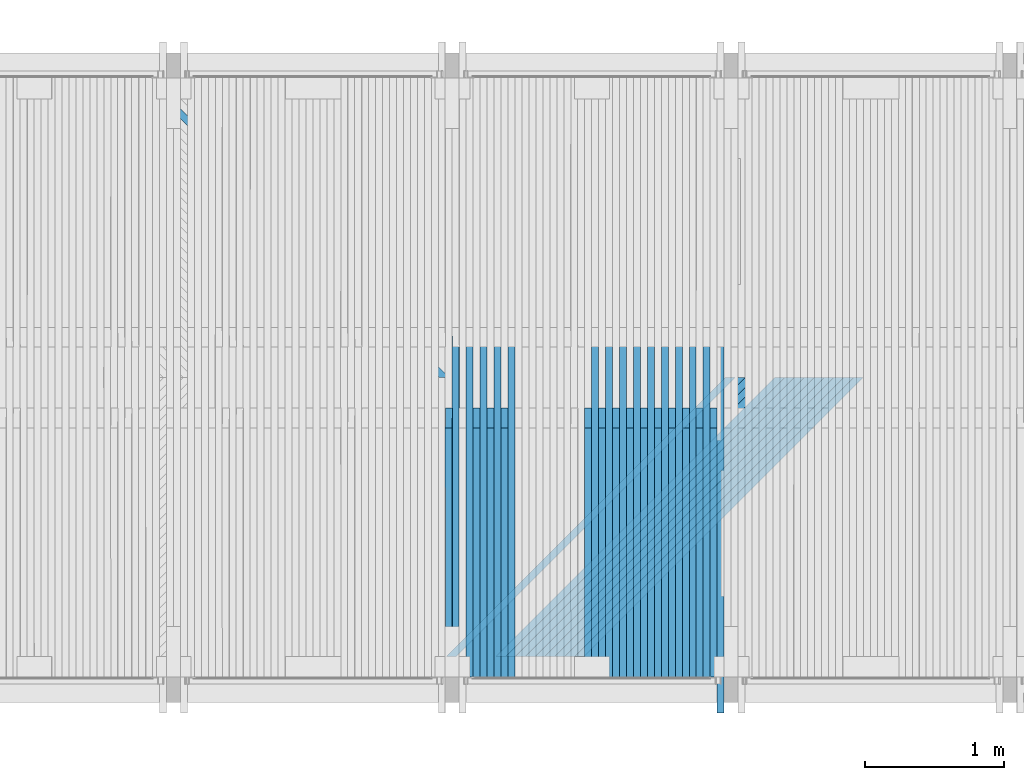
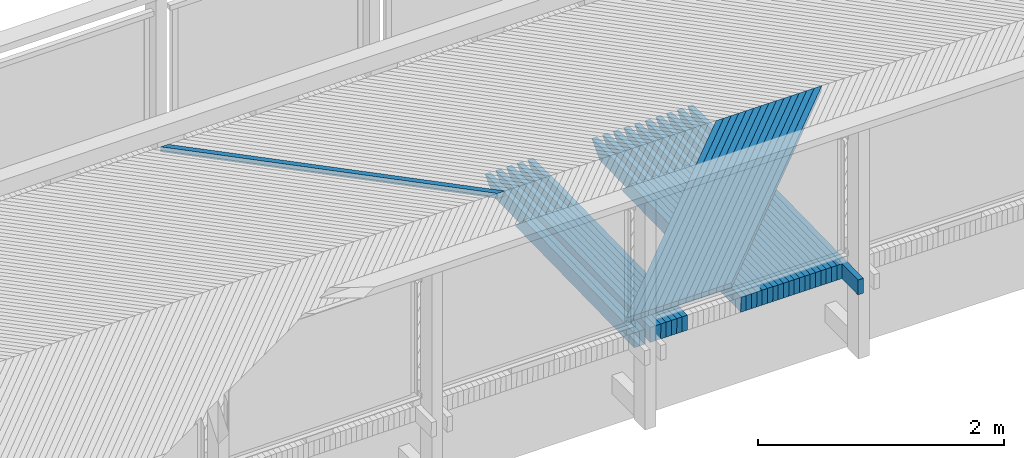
# One storey, part 24 of 65: 44 beams.
"""IFC2X3 building model written with IfcOpenShell, lengths in millimetres."""

from ifc_helpers import new_model, si_unit, frame, origin_with_axes, place, context, subcontext, project, spatial, faceted_brep, material, type_object, element, save


model = new_model("IFC2X3")

# Units and contexts
model_context = context("Model", 3, precision=1e-05, world=origin_with_axes())
body_context = subcontext(model_context, "Body", "Model", "MODEL_VIEW")
ifc_project = project(units=[si_unit("LENGTHUNIT", "METRE", prefix="MILLI"), si_unit("AREAUNIT", "SQUARE_METRE"), si_unit("VOLUMEUNIT", "CUBIC_METRE"), si_unit("MASSUNIT", "GRAM", prefix="KILO"), si_unit("TIMEUNIT", "SECOND"), si_unit("PLANEANGLEUNIT", "RADIAN"), si_unit("SOLIDANGLEUNIT", "STERADIAN"), si_unit("THERMODYNAMICTEMPERATUREUNIT", "DEGREE_CELSIUS"), si_unit("LUMINOUSINTENSITYUNIT", "LUMEN")], contexts=[model_context])

# Site, building, storey
site_placement = place(None, origin_with_axes())
site = spatial("IfcSite", under=ifc_project, at=site_placement, Name="Undefined", CompositionType="ELEMENT")
building_placement = place(site_placement, origin_with_axes())
building = spatial("IfcBuilding", under=site, at=building_placement, Name="Undefined", CompositionType="ELEMENT")
storey_placement = place(building_placement, origin_with_axes())
storey = spatial("IfcBuildingStorey", under=building, at=storey_placement, Name="Undefined", CompositionType="ELEMENT", Elevation=0.0)

# Beams
ifc_material = material(Name="TIMBER/Timber_Undefined")
beam_type_1 = type_object("IfcBeamType", Name="50*50", PredefinedType="NOTDEFINED")
for number, where, z_axis, x_axis, name in (
    (1, (8913.77277485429, 22364.5001003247, 3235.42868074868), (0.707094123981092, -0.706981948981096, -0.0139435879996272), (-0.707119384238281, -0.706948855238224, -0.0143350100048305), "BEAM"),
    (2, (8843.04861667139, 22364.5001003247, 3235.53185944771), (0.707095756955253, -0.70698194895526, -0.013860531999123), (-0.7071176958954, -0.706948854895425, -0.0144180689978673), "BEAM"),
    (3, (8772.32444685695, 22364.5001003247, 3235.62673083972), (0.707097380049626, -0.706981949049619, -0.0137774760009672), (-0.707115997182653, -0.70694885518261, -0.0145011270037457), "BEAM"),
    (4, (8701.60026638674, 22364.5001003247, 3235.71329492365), (0.707098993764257, -0.706981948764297, -0.0136944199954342), (-0.707114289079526, -0.706948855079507, -0.0145841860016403), "BEAM"),
    (5, (8630.87607623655, 22364.5001003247, 3235.79155169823), (0.707100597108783, -0.706981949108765, -0.013611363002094), (-0.707112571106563, -0.706948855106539, -0.0146672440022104), "BEAM"),
    (6, (8560.15187738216, 22364.5001003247, 3235.86150116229), (0.707102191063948, -0.706981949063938, -0.0135283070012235), (-0.707110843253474, -0.706948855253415, -0.0147503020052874), "BEAM"),
    (7, (8489.42767079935, 22364.5001003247, 3235.9231433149), (0.707103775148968, -0.706981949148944, -0.0134452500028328), (-0.707109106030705, -0.706948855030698, -0.0148333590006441), "BEAM"),
    (8, (8418.7034574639, 22364.5001003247, 3235.97647815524), (0.707105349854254, -0.706981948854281, -0.0133621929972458), (-0.70710735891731, -0.706948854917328, -0.0149164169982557), "BEAM"),
    (9, (8347.9792383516, 22364.5001003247, 3236.02150568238), (0.707106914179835, -0.706981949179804, -0.0132791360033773), (-0.707105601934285, -0.7069488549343, -0.014999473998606), "BEAM"),
    (10, (8277.25501443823, 22364.5001003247, 3236.05822589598), (0.707108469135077, -0.706981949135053, -0.0131960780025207), (-0.707103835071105, -0.70694885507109, -0.0150825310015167), "BEAM"),
    (11, (8206.53078669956, 22364.5001003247, 3236.08663879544), (0.707110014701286, -0.706981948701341, -0.0131130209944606), (-0.707102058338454, -0.706948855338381, -0.015165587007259), "BEAM"),
    (12, (8135.80655611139, 22364.5001003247, 3236.10674438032), (0.707111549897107, -0.706981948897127, -0.0130299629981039), (-0.707100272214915, -0.706948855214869, -0.0152486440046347), "BEAM"),
    (13, (8065.0823236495, 22364.5001003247, 3236.11854265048), (0.70711307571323, -0.706981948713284, -0.0129469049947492), (-0.70709847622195, -0.706948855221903, -0.0153317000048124), "BEAM"),
    (14, (7994.35809028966, 22364.5001003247, 3236.12203360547), (0.707114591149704, -0.706981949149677, -0.0128638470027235), (-0.707096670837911, -0.706948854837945, -0.0154147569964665), "BEAM"),
):
    element("IfcBeam", number, at=place(storey_placement, frame(where, z_axis=z_axis, x_axis=x_axis)), inside=storey, type_object=beam_type_1, material=ifc_material, Name=name, ObjectType="50*50", context=body_context, shape_type="Brep", body=[
        faceted_brep([(24.8942457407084, 25.0000000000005, -25.0000000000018), (-25.0086637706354, 24.9999999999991, 25.0), (2804.3406783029, 25.0, 25.0000000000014), (2854.34301907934, 24.9999999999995, -25.0), (-26.4222658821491, -25.0000000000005, 25.0), (2802.92643296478, -25.0, 25.0000000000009), (23.4806436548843, -24.9999999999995, -25.0000000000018), (2852.92877373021, -25.0000000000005, -24.9999999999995)], [[[0, 1, 2, 3]], [[1, 4, 5, 2]], [[4, 6, 7, 5]], [[6, 0, 3, 7]], [[5, 7, 3, 2]], [[6, 4, 1, 0]]]),
    ])
beam_1_placement = place(storey_placement, frame((5943.35931839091, 22365.4998996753, 3232.6095926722), z_axis=(0.707154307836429, 0.70698194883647, -0.0104550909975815), x_axis=(-0.707040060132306, 0.706948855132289, -0.0178232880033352)))
element("IfcBeam", 15, at=beam_1_placement, inside=storey, type_object=beam_type_1, material=ifc_material, Name="BEAM", ObjectType="50*50", context=body_context, shape_type="Brep", body=[
    faceted_brep([(23.5869248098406, 24.9999999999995, -24.9999999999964), (-26.4154158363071, 24.9999999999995, 24.9999999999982), (2802.92643296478, 25.0, 25.0), (2852.92877373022, 25.0000000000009, -25.0), (-25.0011704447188, -25.0, 24.9999999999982), (2804.34067830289, -25.0, 25.0000000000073), (25.0011701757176, -25.0000000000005, -24.9999999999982), (2854.34301907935, -24.9999999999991, -25.0000000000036)], [[[0, 1, 2, 3]], [[1, 4, 5, 2]], [[4, 6, 7, 5]], [[6, 0, 3, 7]], [[5, 7, 3, 2]], [[6, 4, 1, 0]]]),
])
beam_type_2 = type_object("IfcBeamType", Name="150*50", PredefinedType="NOTDEFINED")
for number, where, z_axis, x_axis, name in (
    (16, (7875.75102646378, 20216.5046076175, 3093.13715307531), (-0.000287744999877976, -0.0199960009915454, 0.999800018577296), (-5.75600000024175e-06, 0.999800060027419, 0.0199959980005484), "BEAM"),
    (17, (7775.73099692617, 20216.5046076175, 3093.10819901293), (-0.000453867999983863, -0.0199960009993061, 0.999799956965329), (-9.07800000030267e-06, 0.999800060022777, 0.0199959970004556), "BEAM"),
):
    element("IfcBeam", number, at=place(storey_placement, frame(where, z_axis=z_axis, x_axis=x_axis)), inside=storey, type_object=beam_type_2, material=ifc_material, Name=name, ObjectType="150*50", context=body_context, shape_type="Brep", body=[
        faceted_brep([(-1.6778358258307e-07, -24.9999999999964, -74.9999999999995), (1.67790858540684e-07, -24.9999999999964, 75.0000000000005), (1.67790858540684e-07, 25.0000000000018, 74.9999999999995), (-1.6778358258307e-07, 25.0000000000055, -75.0), (1928.42646353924, -25.0, -75.0000000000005), (1789.96936433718, -25.0000000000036, 74.9999999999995), (1789.96936408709, 24.9999999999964, 75.0), (1928.42646328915, 24.9999999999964, -75.0)], [[[0, 1, 2, 3]], [[1, 0, 4, 5]], [[2, 1, 5, 6]], [[3, 2, 6, 7]], [[0, 3, 7, 4]], [[7, 6, 5, 4]]]),
    ])
beam_2_placement = place(storey_placement, frame((7825.75102780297, 20216.5046076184, 3093.12259668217), z_axis=(-0.000287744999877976, -0.0199960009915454, 0.999800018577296), x_axis=(-5.75600000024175e-06, 0.999800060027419, 0.0199959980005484)))
element("IfcBeam", 18, at=beam_2_placement, inside=storey, type_object=beam_type_2, material=ifc_material, Name="BEAM", ObjectType="150*50", context=body_context, shape_type="Brep", body=[
    faceted_brep([(-1.6778358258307e-07, -24.9999999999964, -74.9999999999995), (1.67790858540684e-07, -24.9999999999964, 75.0000000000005), (1.67790858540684e-07, 25.0000000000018, 74.9999999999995), (-1.6778358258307e-07, 25.0000000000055, -75.0), (2375.00494422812, 25.0000000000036, -75.0), (2375.00494447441, -24.9999999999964, -74.9999999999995), (2510.59248714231, -24.9999999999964, 60.5875430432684), (2150.42514405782, -24.9999999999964, 75.0000000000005), (2150.42515052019, 25.0000000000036, 74.9999999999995), (2510.59248715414, 25.0000000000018, 60.5875433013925)], [[[0, 1, 2, 3]], [[0, 3, 4, 5]], [[1, 0, 5, 6, 7]], [[2, 1, 7, 8]], [[4, 3, 2, 8, 9]], [[5, 4, 9, 6]], [[6, 9, 8, 7]]]),
])
beam_3_placement = place(storey_placement, frame((7675.71097358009, 20216.5046076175, 3093.06262608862), z_axis=(-0.000619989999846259, -0.0199960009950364, 0.999799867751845), x_axis=(-1.24010000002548e-05, 0.99980006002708, 0.0199959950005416)))
element("IfcBeam", 19, at=beam_3_placement, inside=storey, type_object=beam_type_2, material=ifc_material, Name="BEAM", ObjectType="150*50", context=body_context, shape_type="Brep", body=[
    faceted_brep([(-1.6778358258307e-07, -24.9999999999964, -74.9999999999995), (1.67790858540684e-07, -24.9999999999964, 75.0000000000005), (1.67790858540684e-07, 25.0000000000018, 74.9999999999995), (-1.6778358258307e-07, 25.0000000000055, -75.0), (1928.42646353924, -25.0, -75.0000000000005), (1789.96936433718, -25.0000000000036, 74.9999999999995), (1789.96936408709, 24.9999999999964, 75.0), (1928.42646328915, 24.9999999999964, -75.0)], [[[0, 1, 2, 3]], [[1, 0, 4, 5]], [[2, 1, 5, 6]], [[3, 2, 6, 7]], [[0, 3, 7, 4]], [[7, 6, 5, 4]]]),
])
beam_4_placement = place(storey_placement, frame((7725.73100137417, 20216.5046076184, 3093.08533485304), z_axis=(-0.000453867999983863, -0.0199960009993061, 0.999799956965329), x_axis=(-9.07800000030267e-06, 0.999800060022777, 0.0199959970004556)))
element("IfcBeam", 20, at=beam_4_placement, inside=storey, type_object=beam_type_2, material=ifc_material, Name="BEAM", ObjectType="150*50", context=body_context, shape_type="Brep", body=[
    faceted_brep([(-1.6778358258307e-07, -24.9999999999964, -74.9999999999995), (1.67790858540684e-07, -24.9999999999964, 75.0000000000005), (1.67790858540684e-07, 25.0000000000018, 74.9999999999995), (-1.6778358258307e-07, 25.0000000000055, -75.0), (2375.00494422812, 25.0000000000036, -75.0), (2375.00494447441, -24.9999999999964, -74.9999999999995), (2510.59248714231, -24.9999999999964, 60.5875430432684), (2150.42514405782, -24.9999999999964, 75.0000000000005), (2150.42515052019, 25.0000000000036, 74.9999999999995), (2510.59248715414, 25.0000000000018, 60.5875433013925)], [[[0, 1, 2, 3]], [[0, 3, 4, 5]], [[1, 0, 5, 6, 7]], [[2, 1, 7, 8]], [[4, 3, 2, 8, 9]], [[5, 4, 9, 6]], [[6, 9, 8, 7]]]),
])
beam_5_placement = place(storey_placement, frame((7575.69095918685, 20216.5046076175, 3093.00043430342), z_axis=(-0.00078611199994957, -0.0199960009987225, 0.999799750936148), x_axis=(-1.57230000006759e-05, 0.999800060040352, 0.019995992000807)))
element("IfcBeam", 21, at=beam_5_placement, inside=storey, type_object=beam_type_2, material=ifc_material, Name="BEAM", ObjectType="150*50", context=body_context, shape_type="Brep", body=[
    faceted_brep([(-1.6778358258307e-07, -24.9999999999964, -74.9999999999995), (1.67790858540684e-07, -24.9999999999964, 75.0000000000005), (1.67790858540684e-07, 25.0000000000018, 74.9999999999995), (-1.6778358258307e-07, 25.0000000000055, -75.0), (1928.42646353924, -25.0, -75.0000000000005), (1789.96936433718, -25.0000000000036, 74.9999999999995), (1789.96936408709, 24.9999999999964, 75.0), (1928.42646328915, 24.9999999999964, -75.0)], [[[0, 1, 2, 3]], [[1, 0, 4, 5]], [[2, 1, 5, 6]], [[3, 2, 6, 7]], [[0, 3, 7, 4]], [[7, 6, 5, 4]]]),
])
beam_6_placement = place(storey_placement, frame((7625.71098251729, 20216.5046076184, 3093.03145416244), z_axis=(-0.000619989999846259, -0.0199960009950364, 0.999799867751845), x_axis=(-1.24010000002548e-05, 0.99980006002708, 0.0199959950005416)))
element("IfcBeam", 22, at=beam_6_placement, inside=storey, type_object=beam_type_2, material=ifc_material, Name="BEAM", ObjectType="150*50", context=body_context, shape_type="Brep", body=[
    faceted_brep([(-1.6778358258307e-07, -24.9999999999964, -74.9999999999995), (1.67790858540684e-07, -24.9999999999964, 75.0000000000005), (1.67790858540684e-07, 25.0000000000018, 74.9999999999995), (-1.6778358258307e-07, 25.0000000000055, -75.0), (2375.00494422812, 25.0000000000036, -75.0), (2375.00494447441, -24.9999999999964, -74.9999999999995), (2510.59248714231, -24.9999999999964, 60.5875430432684), (2150.42514405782, -24.9999999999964, 75.0000000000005), (2150.42515052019, 25.0000000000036, 74.9999999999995), (2510.59248715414, 25.0000000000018, 60.5875433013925)], [[[0, 1, 2, 3]], [[0, 3, 4, 5]], [[1, 0, 5, 6, 7]], [[2, 1, 7, 8]], [[4, 3, 2, 8, 9]], [[5, 4, 9, 6]], [[6, 9, 8, 7]]]),
])
beam_7_placement = place(storey_placement, frame((7475.67095650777, 20216.5046076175, 3092.92162365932), z_axis=(-0.000952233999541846, -0.0199960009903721, 0.999799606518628), x_axis=(-1.90460000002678e-05, 0.999800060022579, 0.0199959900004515)))
element("IfcBeam", 23, at=beam_7_placement, inside=storey, type_object=beam_type_2, material=ifc_material, Name="BEAM", ObjectType="150*50", context=body_context, shape_type="Brep", body=[
    faceted_brep([(-1.6778358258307e-07, -24.9999999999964, -74.9999999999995), (1.67790858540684e-07, -24.9999999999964, 75.0000000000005), (1.67790858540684e-07, 25.0000000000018, 74.9999999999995), (-1.6778358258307e-07, 25.0000000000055, -75.0), (1928.42646353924, -25.0, -75.0000000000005), (1789.96936433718, -25.0000000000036, 74.9999999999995), (1789.96936408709, 24.9999999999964, 75.0), (1928.42646328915, 24.9999999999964, -75.0)], [[[0, 1, 2, 3]], [[1, 0, 4, 5]], [[2, 1, 5, 6]], [[3, 2, 6, 7]], [[0, 3, 7, 4]], [[7, 6, 5, 4]]]),
])
beam_8_placement = place(storey_placement, frame((7525.69097399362, 20216.5046076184, 3092.96095461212), z_axis=(-0.00078611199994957, -0.0199960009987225, 0.999799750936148), x_axis=(-1.57230000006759e-05, 0.999800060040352, 0.019995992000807)))
element("IfcBeam", 24, at=beam_8_placement, inside=storey, type_object=beam_type_2, material=ifc_material, Name="BEAM", ObjectType="150*50", context=body_context, shape_type="Brep", body=[
    faceted_brep([(-1.6778358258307e-07, -24.9999999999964, -74.9999999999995), (1.67790858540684e-07, -24.9999999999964, 75.0000000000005), (1.67790858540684e-07, 25.0000000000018, 74.9999999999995), (-1.6778358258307e-07, 25.0000000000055, -75.0), (2375.00494422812, 25.0000000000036, -75.0), (2375.00494447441, -24.9999999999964, -74.9999999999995), (2510.59248714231, -24.9999999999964, 60.5875430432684), (2150.42514405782, -24.9999999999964, 75.0000000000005), (2150.42515052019, 25.0000000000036, 74.9999999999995), (2510.59248715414, 25.0000000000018, 60.5875433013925)], [[[0, 1, 2, 3]], [[0, 3, 4, 5]], [[1, 0, 5, 6, 7]], [[2, 1, 7, 8]], [[4, 3, 2, 8, 9]], [[5, 4, 9, 6]], [[6, 9, 8, 7]]]),
])
beam_9_placement = place(storey_placement, frame((7375.65096830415, 20216.5046076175, 3092.82619415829), z_axis=(-0.00111835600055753, -0.019996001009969, 0.999799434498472), x_axis=(-2.23680000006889e-05, 0.999800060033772, 0.0199959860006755)))
element("IfcBeam", 25, at=beam_9_placement, inside=storey, type_object=beam_type_2, material=ifc_material, Name="BEAM", ObjectType="150*50", context=body_context, shape_type="Brep", body=[
    faceted_brep([(-1.6778358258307e-07, -24.9999999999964, -74.9999999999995), (1.67790858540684e-07, -24.9999999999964, 75.0000000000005), (1.67790858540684e-07, 25.0000000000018, 74.9999999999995), (-1.6778358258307e-07, 25.0000000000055, -75.0), (1928.42646353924, -25.0, -75.0000000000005), (1789.96936433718, -25.0000000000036, 74.9999999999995), (1789.96936408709, 24.9999999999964, 75.0), (1928.42646328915, 24.9999999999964, -75.0)], [[[0, 1, 2, 3]], [[1, 0, 4, 5]], [[2, 1, 5, 6]], [[3, 2, 6, 7]], [[0, 3, 7, 4]], [[7, 6, 5, 4]]]),
])
beam_10_placement = place(storey_placement, frame((7425.67097856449, 20216.5046076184, 3092.87383620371), z_axis=(-0.000952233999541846, -0.0199960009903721, 0.999799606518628), x_axis=(-1.90460000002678e-05, 0.999800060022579, 0.0199959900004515)))
element("IfcBeam", 26, at=beam_10_placement, inside=storey, type_object=beam_type_2, material=ifc_material, Name="BEAM", ObjectType="150*50", context=body_context, shape_type="Brep", body=[
    faceted_brep([(-1.6778358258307e-07, -24.9999999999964, -74.9999999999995), (1.67790858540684e-07, -24.9999999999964, 75.0000000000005), (1.67790858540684e-07, 25.0000000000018, 74.9999999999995), (-1.6778358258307e-07, 25.0000000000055, -75.0), (2375.00494422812, 25.0000000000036, -75.0), (2375.00494447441, -24.9999999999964, -74.9999999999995), (2510.59248714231, -24.9999999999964, 60.5875430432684), (2150.42514405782, -24.9999999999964, 75.0000000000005), (2150.42515052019, 25.0000000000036, 74.9999999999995), (2510.59248715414, 25.0000000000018, 60.5875433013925)], [[[0, 1, 2, 3]], [[0, 3, 4, 5]], [[1, 0, 5, 6, 7]], [[2, 1, 7, 8]], [[4, 3, 2, 8, 9]], [[5, 4, 9, 6]], [[6, 9, 8, 7]]]),
])
beam_11_placement = place(storey_placement, frame((7275.63099733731, 20216.5046076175, 3092.71414580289), z_axis=(-0.00128447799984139, -0.0199960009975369, 0.99979923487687), x_axis=(-2.56900000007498e-05, 0.999800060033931, 0.0199959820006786)))
element("IfcBeam", 27, at=beam_11_placement, inside=storey, type_object=beam_type_2, material=ifc_material, Name="BEAM", ObjectType="150*50", context=body_context, shape_type="Brep", body=[
    faceted_brep([(-1.6778358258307e-07, -24.9999999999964, -74.9999999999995), (1.67790858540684e-07, -24.9999999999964, 75.0000000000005), (1.67790858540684e-07, 25.0000000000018, 74.9999999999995), (-1.6778358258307e-07, 25.0000000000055, -75.0), (1928.42646353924, -25.0, -75.0000000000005), (1789.96936433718, -25.0000000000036, 74.9999999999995), (1789.96936408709, 24.9999999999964, 75.0), (1928.42646328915, 24.9999999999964, -75.0)], [[[0, 1, 2, 3]], [[1, 0, 4, 5]], [[2, 1, 5, 6]], [[3, 2, 6, 7]], [[0, 3, 7, 4]], [[7, 6, 5, 4]]]),
])
beam_12_placement = place(storey_placement, frame((7325.6509989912, 20216.5046076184, 3092.77009893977), z_axis=(-0.00111835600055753, -0.019996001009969, 0.999799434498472), x_axis=(-2.23680000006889e-05, 0.999800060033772, 0.0199959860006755)))
element("IfcBeam", 28, at=beam_12_placement, inside=storey, type_object=beam_type_2, material=ifc_material, Name="BEAM", ObjectType="150*50", context=body_context, shape_type="Brep", body=[
    faceted_brep([(-1.6778358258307e-07, -24.9999999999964, -74.9999999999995), (1.67790858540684e-07, -24.9999999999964, 75.0000000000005), (1.67790858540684e-07, 25.0000000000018, 74.9999999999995), (-1.6778358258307e-07, 25.0000000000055, -75.0), (2375.00494422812, 25.0000000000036, -75.0), (2375.00494447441, -24.9999999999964, -74.9999999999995), (2510.59248714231, -24.9999999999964, 60.5875430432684), (2150.42514405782, -24.9999999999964, 75.0000000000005), (2150.42515052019, 25.0000000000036, 74.9999999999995), (2510.59248715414, 25.0000000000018, 60.5875433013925)], [[[0, 1, 2, 3]], [[0, 3, 4, 5]], [[1, 0, 5, 6, 7]], [[2, 1, 7, 8]], [[4, 3, 2, 8, 9]], [[5, 4, 9, 6]], [[6, 9, 8, 7]]]),
])
beam_13_placement = place(storey_placement, frame((7175.61104636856, 20216.5046076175, 3092.58547859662), z_axis=(-0.00145059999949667, -0.0199960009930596, 0.999799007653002), x_axis=(-2.90130000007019e-05, 0.999800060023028, 0.0199959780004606)))
element("IfcBeam", 29, at=beam_13_placement, inside=storey, type_object=beam_type_2, material=ifc_material, Name="BEAM", ObjectType="150*50", context=body_context, shape_type="Brep", body=[
    faceted_brep([(-1.6778358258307e-07, -24.9999999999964, -74.9999999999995), (1.67790858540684e-07, -24.9999999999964, 75.0000000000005), (1.67790858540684e-07, 25.0000000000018, 74.9999999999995), (-1.6778358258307e-07, 25.0000000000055, -75.0), (1928.42646353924, -25.0, -75.0000000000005), (1789.96936433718, -25.0000000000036, 74.9999999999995), (1789.96936408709, 24.9999999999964, 75.0), (1928.42646328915, 24.9999999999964, -75.0)], [[[0, 1, 2, 3]], [[1, 0, 4, 5]], [[2, 1, 5, 6]], [[3, 2, 6, 7]], [[0, 3, 7, 4]], [[7, 6, 5, 4]]]),
])
beam_14_placement = place(storey_placement, frame((7225.63103803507, 20216.5046076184, 3092.64974282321), z_axis=(-0.00128447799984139, -0.0199960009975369, 0.99979923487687), x_axis=(-2.56900000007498e-05, 0.999800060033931, 0.0199959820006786)))
element("IfcBeam", 30, at=beam_14_placement, inside=storey, type_object=beam_type_2, material=ifc_material, Name="BEAM", ObjectType="150*50", context=body_context, shape_type="Brep", body=[
    faceted_brep([(-1.6778358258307e-07, -24.9999999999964, -74.9999999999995), (1.67790858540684e-07, -24.9999999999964, 75.0000000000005), (1.67790858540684e-07, 25.0000000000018, 74.9999999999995), (-1.6778358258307e-07, 25.0000000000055, -75.0), (2375.00494422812, 25.0000000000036, -75.0), (2375.00494447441, -24.9999999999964, -74.9999999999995), (2510.59248714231, -24.9999999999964, 60.5875430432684), (2150.42514405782, -24.9999999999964, 75.0000000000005), (2150.42515052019, 25.0000000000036, 74.9999999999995), (2510.59248715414, 25.0000000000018, 60.5875433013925)], [[[0, 1, 2, 3]], [[0, 3, 4, 5]], [[1, 0, 5, 6, 7]], [[2, 1, 7, 8]], [[4, 3, 2, 8, 9]], [[5, 4, 9, 6]], [[6, 9, 8, 7]]]),
])
beam_15_placement = place(storey_placement, frame((7075.5911181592, 20216.5046076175, 3092.44019254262), z_axis=(-0.00161672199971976, -0.0199960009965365, 0.999798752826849), x_axis=(-3.23350000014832e-05, 0.999800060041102, 0.019995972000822)))
element("IfcBeam", 31, at=beam_15_placement, inside=storey, type_object=beam_type_2, material=ifc_material, Name="BEAM", ObjectType="150*50", context=body_context, shape_type="Brep", body=[
    faceted_brep([(-1.6778358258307e-07, -24.9999999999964, -74.9999999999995), (1.67790858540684e-07, -24.9999999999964, 75.0000000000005), (1.67790858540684e-07, 25.0000000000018, 74.9999999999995), (-1.6778358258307e-07, 25.0000000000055, -75.0), (1928.42646353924, -25.0, -75.0000000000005), (1789.96936433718, -25.0000000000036, 74.9999999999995), (1789.96936408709, 24.9999999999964, 75.0), (1928.42646328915, 24.9999999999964, -75.0)], [[[0, 1, 2, 3]], [[1, 0, 4, 5]], [[2, 1, 5, 6]], [[3, 2, 6, 7]], [[0, 3, 7, 4]], [[7, 6, 5, 4]]]),
])
beam_16_placement = place(storey_placement, frame((7125.61109845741, 20216.5046076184, 3092.51276785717), z_axis=(-0.00145059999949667, -0.0199960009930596, 0.999799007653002), x_axis=(-2.90130000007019e-05, 0.999800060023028, 0.0199959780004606)))
element("IfcBeam", 32, at=beam_16_placement, inside=storey, type_object=beam_type_2, material=ifc_material, Name="BEAM", ObjectType="150*50", context=body_context, shape_type="Brep", body=[
    faceted_brep([(-1.6778358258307e-07, -24.9999999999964, -74.9999999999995), (1.67790858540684e-07, -24.9999999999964, 75.0000000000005), (1.67790858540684e-07, 25.0000000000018, 74.9999999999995), (-1.6778358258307e-07, 25.0000000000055, -75.0), (2375.00494422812, 25.0000000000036, -75.0), (2375.00494447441, -24.9999999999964, -74.9999999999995), (2510.59248714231, -24.9999999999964, 60.5875430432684), (2150.42514405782, -24.9999999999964, 75.0000000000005), (2150.42515052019, 25.0000000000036, 74.9999999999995), (2510.59248715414, 25.0000000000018, 60.5875433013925)], [[[0, 1, 2, 3]], [[0, 3, 4, 5]], [[1, 0, 5, 6, 7]], [[2, 1, 7, 8]], [[4, 3, 2, 8, 9]], [[5, 4, 9, 6]], [[6, 9, 8, 7]]]),
])
beam_17_placement = place(storey_placement, frame((6975.57121547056, 20216.5046076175, 3092.27828764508), z_axis=(-0.0017828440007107, -0.0199960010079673, 0.999798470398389), x_axis=(-3.56580000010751e-05, 0.999800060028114, 0.0199959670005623)))
element("IfcBeam", 33, at=beam_17_placement, inside=storey, type_object=beam_type_2, material=ifc_material, Name="BEAM", ObjectType="150*50", context=body_context, shape_type="Brep", body=[
    faceted_brep([(-1.6778358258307e-07, -24.9999999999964, -74.9999999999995), (1.67790858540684e-07, -24.9999999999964, 75.0000000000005), (1.67790858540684e-07, 25.0000000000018, 74.9999999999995), (-1.6778358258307e-07, 25.0000000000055, -75.0), (1928.42646353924, -25.0, -75.0000000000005), (1789.96936433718, -25.0000000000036, 74.9999999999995), (1789.96936408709, 24.9999999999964, 75.0), (1928.42646328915, 24.9999999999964, -75.0)], [[[0, 1, 2, 3]], [[1, 0, 4, 5]], [[2, 1, 5, 6]], [[3, 2, 6, 7]], [[0, 3, 7, 4]], [[7, 6, 5, 4]]]),
])
beam_18_placement = place(storey_placement, frame((7025.59118301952, 20216.5046076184, 3092.35917404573), z_axis=(-0.00161672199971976, -0.0199960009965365, 0.999798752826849), x_axis=(-3.23350000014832e-05, 0.999800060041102, 0.019995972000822)))
element("IfcBeam", 34, at=beam_18_placement, inside=storey, type_object=beam_type_2, material=ifc_material, Name="BEAM", ObjectType="150*50", context=body_context, shape_type="Brep", body=[
    faceted_brep([(-1.6778358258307e-07, -24.9999999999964, -74.9999999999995), (1.67790858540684e-07, -24.9999999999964, 75.0000000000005), (1.67790858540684e-07, 25.0000000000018, 74.9999999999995), (-1.6778358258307e-07, 25.0000000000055, -75.0), (2375.00494422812, 25.0000000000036, -75.0), (2375.00494447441, -24.9999999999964, -74.9999999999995), (2510.59248714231, -24.9999999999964, 60.5875430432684), (2150.42514405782, -24.9999999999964, 75.0000000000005), (2150.42515052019, 25.0000000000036, 74.9999999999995), (2510.59248715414, 25.0000000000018, 60.5875433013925)], [[[0, 1, 2, 3]], [[0, 3, 4, 5]], [[1, 0, 5, 6, 7]], [[2, 1, 7, 8]], [[4, 3, 2, 8, 9]], [[5, 4, 9, 6]], [[6, 9, 8, 7]]]),
])
beam_19_placement = place(storey_placement, frame((6375.45248990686, 20216.5046076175, 3090.957862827), z_axis=(-0.00277957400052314, -0.0199960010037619, 0.99979619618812), x_axis=(-5.55920000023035e-05, 0.999800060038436, 0.0199959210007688)))
element("IfcBeam", 35, at=beam_19_placement, inside=storey, type_object=beam_type_2, material=ifc_material, Name="BEAM", ObjectType="150*50", context=body_context, shape_type="Brep", body=[
    faceted_brep([(-1.6778358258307e-07, -24.9999999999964, -74.9999999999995), (1.67790858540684e-07, -24.9999999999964, 75.0000000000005), (1.67790858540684e-07, 25.0000000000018, 74.9999999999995), (-1.6778358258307e-07, 25.0000000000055, -75.0), (1928.42646353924, -25.0, -75.0000000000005), (1789.96936433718, -25.0000000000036, 74.9999999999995), (1789.96936408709, 24.9999999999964, 75.0), (1928.42646328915, 24.9999999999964, -75.0)], [[[0, 1, 2, 3]], [[1, 0, 4, 5]], [[2, 1, 5, 6]], [[3, 2, 6, 7]], [[0, 3, 7, 4]], [[7, 6, 5, 4]]]),
])
beam_20_placement = place(storey_placement, frame((6425.47235196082, 20216.5046076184, 3091.08861568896), z_axis=(-0.00261345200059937, -0.0199960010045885, 0.999796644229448), x_axis=(-5.22700000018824e-05, 0.999800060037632, 0.0199959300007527)))
element("IfcBeam", 36, at=beam_20_placement, inside=storey, type_object=beam_type_2, material=ifc_material, Name="BEAM", ObjectType="150*50", context=body_context, shape_type="Brep", body=[
    faceted_brep([(-1.6778358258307e-07, -24.9999999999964, -74.9999999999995), (1.67790858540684e-07, -24.9999999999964, 75.0000000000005), (1.67790858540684e-07, 25.0000000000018, 74.9999999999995), (-1.6778358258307e-07, 25.0000000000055, -75.0), (2375.00494422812, 25.0000000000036, -75.0), (2375.00494447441, -24.9999999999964, -74.9999999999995), (2510.59248714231, -24.9999999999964, 60.5875430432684), (2150.42514405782, -24.9999999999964, 75.0000000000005), (2150.42515052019, 25.0000000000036, 74.9999999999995), (2510.59248715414, 25.0000000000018, 60.5875433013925)], [[[0, 1, 2, 3]], [[0, 3, 4, 5]], [[1, 0, 5, 6, 7]], [[2, 1, 7, 8]], [[4, 3, 2, 8, 9]], [[5, 4, 9, 6]], [[6, 9, 8, 7]]]),
])
beam_21_placement = place(storey_placement, frame((6275.43284317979, 20216.5046076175, 3090.6796261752), z_axis=(-0.00294569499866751, -0.019996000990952, 0.999795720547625), x_axis=(-5.89150000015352e-05, 0.999800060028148, 0.019995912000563)))
element("IfcBeam", 37, at=beam_21_placement, inside=storey, type_object=beam_type_2, material=ifc_material, Name="BEAM", ObjectType="150*50", context=body_context, shape_type="Brep", body=[
    faceted_brep([(-1.6778358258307e-07, -24.9999999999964, -74.9999999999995), (1.67790858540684e-07, -24.9999999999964, 75.0000000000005), (1.67790858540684e-07, 25.0000000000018, 74.9999999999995), (-1.6778358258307e-07, 25.0000000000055, -75.0), (1928.42646353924, -25.0, -75.0000000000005), (1789.96936433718, -25.0000000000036, 74.9999999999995), (1789.96936408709, 24.9999999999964, 75.0), (1928.42646328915, 24.9999999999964, -75.0)], [[[0, 1, 2, 3]], [[1, 0, 4, 5]], [[2, 1, 5, 6]], [[3, 2, 6, 7]], [[0, 3, 7, 4]], [[7, 6, 5, 4]]]),
])
beam_22_placement = place(storey_placement, frame((6325.45268281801, 20216.5046076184, 3090.81869010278), z_axis=(-0.00277957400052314, -0.0199960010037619, 0.99979619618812), x_axis=(-5.55920000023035e-05, 0.999800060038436, 0.0199959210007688)))
element("IfcBeam", 38, at=beam_22_placement, inside=storey, type_object=beam_type_2, material=ifc_material, Name="BEAM", ObjectType="150*50", context=body_context, shape_type="Brep", body=[
    faceted_brep([(-1.6778358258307e-07, -24.9999999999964, -74.9999999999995), (1.67790858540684e-07, -24.9999999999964, 75.0000000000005), (1.67790858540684e-07, 25.0000000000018, 74.9999999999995), (-1.6778358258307e-07, 25.0000000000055, -75.0), (2375.00494422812, 25.0000000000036, -75.0), (2375.00494447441, -24.9999999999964, -74.9999999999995), (2510.59248714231, -24.9999999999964, 60.5875430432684), (2150.42514405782, -24.9999999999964, 75.0000000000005), (2150.42515052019, 25.0000000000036, 74.9999999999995), (2510.59248715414, 25.0000000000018, 60.5875433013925)], [[[0, 1, 2, 3]], [[0, 3, 4, 5]], [[1, 0, 5, 6, 7]], [[2, 1, 7, 8]], [[4, 3, 2, 8, 9]], [[5, 4, 9, 6]], [[6, 9, 8, 7]]]),
])
beam_23_placement = place(storey_placement, frame((6175.41324406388, 20216.5046076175, 3090.38477072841), z_axis=(-0.00311181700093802, -0.0199960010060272, 0.999795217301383), x_axis=(-6.22370000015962e-05, 0.999800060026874, 0.0199959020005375)))
element("IfcBeam", 39, at=beam_23_placement, inside=storey, type_object=beam_type_2, material=ifc_material, Name="BEAM", ObjectType="150*50", context=body_context, shape_type="Brep", body=[
    faceted_brep([(-1.6778358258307e-07, -24.9999999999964, -74.9999999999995), (1.67790858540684e-07, -24.9999999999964, 75.0000000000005), (1.67790858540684e-07, 25.0000000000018, 74.9999999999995), (-1.6778358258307e-07, 25.0000000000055, -75.0), (1928.42646353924, -25.0, -75.0000000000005), (1789.96936433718, -25.0000000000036, 74.9999999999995), (1789.96936408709, 24.9999999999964, 75.0), (1928.42646328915, 24.9999999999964, -75.0)], [[[0, 1, 2, 3]], [[1, 0, 4, 5]], [[2, 1, 5, 6]], [[3, 2, 6, 7]], [[0, 3, 7, 4]], [[7, 6, 5, 4]]]),
])
for number, where, z_axis, x_axis, name in (
    (40, (6225.43305990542, 20216.5046076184, 3090.53214571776), (-0.00294569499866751, -0.019996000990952, 0.999795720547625), (-5.89150000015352e-05, 0.999800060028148, 0.019995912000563), "BEAM"),
    (41, (6125.41348598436, 20216.5046076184, 3090.22898254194), (-0.00311181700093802, -0.0199960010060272, 0.999795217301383), (-6.22370000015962e-05, 0.999800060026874, 0.0199959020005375), "BEAM"),
):
    element("IfcBeam", number, at=place(storey_placement, frame(where, z_axis=z_axis, x_axis=x_axis)), inside=storey, type_object=beam_type_2, material=ifc_material, Name=name, ObjectType="150*50", context=body_context, shape_type="Brep", body=[
        faceted_brep([(-1.6778358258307e-07, -24.9999999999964, -74.9999999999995), (1.67790858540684e-07, -24.9999999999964, 75.0000000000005), (1.67790858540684e-07, 25.0000000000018, 74.9999999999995), (-1.6778358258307e-07, 25.0000000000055, -75.0), (2375.00494422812, 25.0000000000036, -75.0), (2375.00494447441, -24.9999999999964, -74.9999999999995), (2510.59248714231, -24.9999999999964, 60.5875430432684), (2150.42514405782, -24.9999999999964, 75.0000000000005), (2150.42515052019, 25.0000000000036, 74.9999999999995), (2510.59248715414, 25.0000000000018, 60.5875433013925)], [[[0, 1, 2, 3]], [[0, 3, 4, 5]], [[1, 0, 5, 6, 7]], [[2, 1, 7, 8]], [[4, 3, 2, 8, 9]], [[5, 4, 9, 6]], [[6, 9, 8, 7]]]),
    ])
beam_24_placement = place(storey_placement, frame((5975.37419971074, 20216.5046076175, 3089.74520348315), z_axis=(-0.00344405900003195, -0.0199960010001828, 0.999794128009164), x_axis=(-6.88820000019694e-05, 0.99980006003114, 0.0199958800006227)))
element("IfcBeam", 42, at=beam_24_placement, inside=storey, type_object=beam_type_2, material=ifc_material, Name="BEAM", ObjectType="150*50", context=body_context, shape_type="Brep", body=[
    faceted_brep([(-1.6778358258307e-07, -24.9999999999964, -74.9999999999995), (1.67790858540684e-07, -24.9999999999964, 75.0000000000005), (1.67790858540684e-07, 25.0000000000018, 74.9999999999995), (-1.6778358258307e-07, 25.0000000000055, -75.0), (1928.42646353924, -25.0, -75.0000000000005), (1789.96936433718, -25.0000000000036, 74.9999999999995), (1789.96936408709, 24.9999999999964, 75.0), (1928.42646328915, 24.9999999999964, -75.0)], [[[0, 1, 2, 3]], [[1, 0, 4, 5]], [[2, 1, 5, 6]], [[3, 2, 6, 7]], [[0, 3, 7, 4]], [[7, 6, 5, 4]]]),
])
beam_25_placement = place(storey_placement, frame((6025.39396381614, 20216.5046076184, 3089.90920058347), z_axis=(-0.00327793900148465, -0.0199960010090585, 0.999794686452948), x_axis=(-6.55590000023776e-05, 0.999800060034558, 0.0199958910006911)))
element("IfcBeam", 43, at=beam_25_placement, inside=storey, type_object=beam_type_2, material=ifc_material, Name="BEAM", ObjectType="150*50", context=body_context, shape_type="Brep", body=[
    faceted_brep([(-1.6778358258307e-07, -24.9999999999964, -74.9999999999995), (1.67790858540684e-07, -24.9999999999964, 75.0000000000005), (1.67790858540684e-07, 25.0000000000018, 74.9999999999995), (-1.6778358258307e-07, 25.0000000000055, -75.0), (2375.00494422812, 25.0000000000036, -75.0), (2375.00494447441, -24.9999999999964, -74.9999999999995), (2510.59248714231, -24.9999999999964, 60.5875430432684), (2150.42514405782, -24.9999999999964, 75.0000000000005), (2150.42515052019, 25.0000000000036, 74.9999999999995), (2510.59248715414, 25.0000000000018, 60.5875433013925)], [[[0, 1, 2, 3]], [[0, 3, 4, 5]], [[1, 0, 5, 6, 7]], [[2, 1, 7, 8]], [[4, 3, 2, 8, 9]], [[5, 4, 9, 6]], [[6, 9, 8, 7]]]),
])
beam_26_placement = place(storey_placement, frame((7925.15143775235, 19958.5561921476, 3087.98372200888), z_axis=(-0.000121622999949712, -0.0199960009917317, 0.999800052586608), x_axis=(-2.43299999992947e-06, 0.999800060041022, 0.0199959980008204)))
element("IfcBeam", 44, at=beam_26_placement, inside=storey, type_object=beam_type_2, material=ifc_material, Name="BEAM", ObjectType="150*50", context=body_context, shape_type="Brep", body=[
    faceted_brep([(-1.6778358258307e-07, -24.9999999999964, -74.9999999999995), (1.67790858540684e-07, -24.9999999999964, 75.0000000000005), (1.67790858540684e-07, 25.0000000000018, 74.9999999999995), (-1.6778358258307e-07, 25.0000000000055, -75.0), (2633.00494750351, 24.9999999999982, -74.9999999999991), (2633.00494763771, -25.0000000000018, -74.9999999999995), (2768.59248713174, -25.0000000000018, 60.5875397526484), (2408.42500011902, -25.0, 75.0), (2408.42500056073, 25.0, 75.0), (2768.59248710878, 24.9999999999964, 60.587539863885)], [[[0, 1, 2, 3]], [[0, 3, 4, 5]], [[1, 0, 5, 6, 7]], [[2, 1, 7, 8]], [[4, 3, 2, 8, 9]], [[5, 4, 9, 6]], [[8, 7, 6, 9]]]),
])

save(model, "model.ifc")
